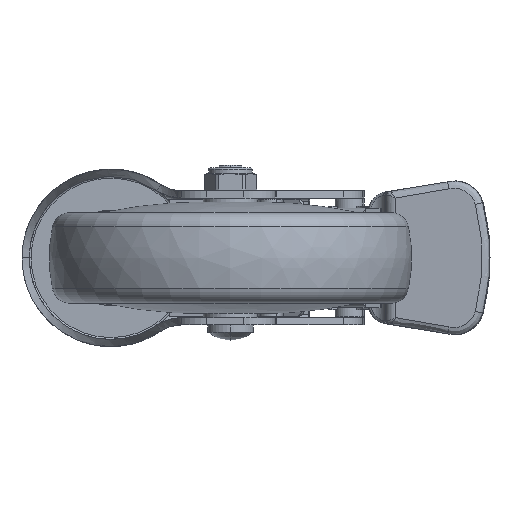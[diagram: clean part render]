
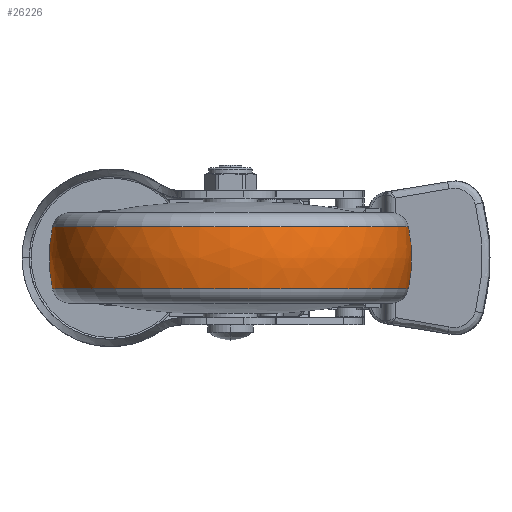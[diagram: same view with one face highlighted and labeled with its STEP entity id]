
A CAD part, front view. The second image highlights one B-rep face of the part: STEP entity #26226.
In plain terms, the highlighted free-form (B-spline) face has degree [3, 3] with [7, 4] control points.
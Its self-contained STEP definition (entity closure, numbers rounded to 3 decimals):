
#24440=CARTESIAN_POINT('',(-59.886,21.377,0.));
#24441=DIRECTION('',(-1.,0.,0.));
#24442=DIRECTION('',(0.,1.,0.));
#24443=AXIS2_PLACEMENT_3D('',#24440,#24441,#24442);
#24445=CARTESIAN_POINT('',(-68.457,31.377,0.));
#24446=DIRECTION('',(0.,0.,1.));
#24447=DIRECTION('',(0.214,0.977,0.));
#24448=AXIS2_PLACEMENT_3D('',#24445,#24446,#24447);
#24455=CARTESIAN_POINT('',(-68.457,11.377,0.));
#24456=DIRECTION('',(0.,0.,-1.));
#24457=DIRECTION('',(0.214,-0.977,0.));
#24458=AXIS2_PLACEMENT_3D('',#24455,#24456,#24457);
#24475=CARTESIAN_POINT('',(-77.029,21.377,0.));
#24476=DIRECTION('',(-1.,0.,0.));
#24477=DIRECTION('',(0.,1.,0.));
#24478=AXIS2_PLACEMENT_3D('',#24475,#24476,#24477);
#26110=CARTESIAN_POINT('',(-59.886,70.448,0.));
#26111=CARTESIAN_POINT('',(-77.029,70.448,0.));
#26112=VERTEX_POINT('',#26110);
#26113=VERTEX_POINT('',#26111);
#26118=CARTESIAN_POINT('',(-59.886,-27.694,
0.));
#26119=CARTESIAN_POINT('',(-77.029,-27.694,
0.));
#26120=VERTEX_POINT('',#26118);
#26121=VERTEX_POINT('',#26119);
#26188=CARTESIAN_POINT('',(-59.548,70.276,
3.076));
#26189=CARTESIAN_POINT('',(-65.437,71.618,
3.161));
#26190=CARTESIAN_POINT('',(-71.477,71.618,
3.161));
#26191=CARTESIAN_POINT('',(-77.366,70.276,
3.076));
#26192=CARTESIAN_POINT('',(-59.548,72.169,
-27.016));
#26193=CARTESIAN_POINT('',(-65.437,73.563,
-27.757));
#26194=CARTESIAN_POINT('',(-71.477,73.563,
-27.757));
#26195=CARTESIAN_POINT('',(-77.366,72.169,
-27.016));
#26196=CARTESIAN_POINT('',(-59.548,51.529,
-48.995));
#26197=CARTESIAN_POINT('',(-65.437,52.356,
-50.341));
#26198=CARTESIAN_POINT('',(-71.477,52.356,
-50.341));
#26199=CARTESIAN_POINT('',(-77.366,51.529,
-48.995));
#26200=CARTESIAN_POINT('',(-59.548,21.377,
-48.995));
#26201=CARTESIAN_POINT('',(-65.437,21.377,
-50.341));
#26202=CARTESIAN_POINT('',(-71.477,21.377,
-50.341));
#26203=CARTESIAN_POINT('',(-77.366,21.377,
-48.995));
#26204=CARTESIAN_POINT('',(-59.548,-8.775,
-48.995));
#26205=CARTESIAN_POINT('',(-65.437,-9.603,
-50.341));
#26206=CARTESIAN_POINT('',(-71.477,-9.603,
-50.341));
#26207=CARTESIAN_POINT('',(-77.366,-8.775,
-48.995));
#26208=CARTESIAN_POINT('',(-59.548,-29.415,
-27.016));
#26209=CARTESIAN_POINT('',(-65.437,-30.81,
-27.757));
#26210=CARTESIAN_POINT('',(-71.477,-30.81,
-27.757));
#26211=CARTESIAN_POINT('',(-77.366,-29.415,
-27.016));
#26212=CARTESIAN_POINT('',(-59.548,-27.522,
3.076));
#26213=CARTESIAN_POINT('',(-65.437,-28.864,
3.161));
#26214=CARTESIAN_POINT('',(-71.477,-28.864,
3.161));
#26215=CARTESIAN_POINT('',(-77.366,-27.522,
3.076));
#26216=(BOUNDED_SURFACE()B_SPLINE_SURFACE(3,3,((#26188,#26189,#26190,#26191),(
#26192,#26193,#26194,#26195),(#26196,#26197,#26198,#26199),(#26200,#26201,
#26202,#26203),(#26204,#26205,#26206,#26207),(#26208,#26209,#26210,#26211),(
#26212,#26213,#26214,#26215)),.UNSPECIFIED.,.F.,.F.,.F.)B_SPLINE_SURFACE_WITH_KNOTS((4,3,4),(4,4),(0.,1.,2.),(0.,1.),.UNSPECIFIED.)GEOMETRIC_REPRESENTATION_ITEM()RATIONAL_B_SPLINE_SURFACE(((1.202,1.182,
1.182,1.202),(0.95,0.934,
0.934,0.95),(0.95,0.934,
0.934,0.95),(1.202,1.182,
1.182,1.202),(0.95,0.934,
0.934,0.95),(0.95,0.934,
0.934,0.95),(1.202,1.182,
1.182,1.202)))REPRESENTATION_ITEM('')SURFACE());
#26218=ORIENTED_EDGE('',*,*,#26217,.T.);
#26220=ORIENTED_EDGE('',*,*,#26219,.T.);
#26222=ORIENTED_EDGE('',*,*,#26221,.F.);
#26223=ORIENTED_EDGE('',*,*,#26181,.F.);
#26224=EDGE_LOOP('',(#26218,#26220,#26222,#26223));
#26225=FACE_OUTER_BOUND('',#26224,.F.);
#24444=CIRCLE('',#24443,49.071);
#24449=CIRCLE('',#24448,40.);
#24459=CIRCLE('',#24458,40.);
#24479=CIRCLE('',#24478,49.071);
#26181=EDGE_CURVE('',#26112,#26120,#24444,.T.);
#26217=EDGE_CURVE('',#26112,#26113,#24449,.T.);
#26219=EDGE_CURVE('',#26113,#26121,#24479,.T.);
#26221=EDGE_CURVE('',#26120,#26121,#24459,.T.);
#26226=ADVANCED_FACE('',(#26225),#26216,.T.);
